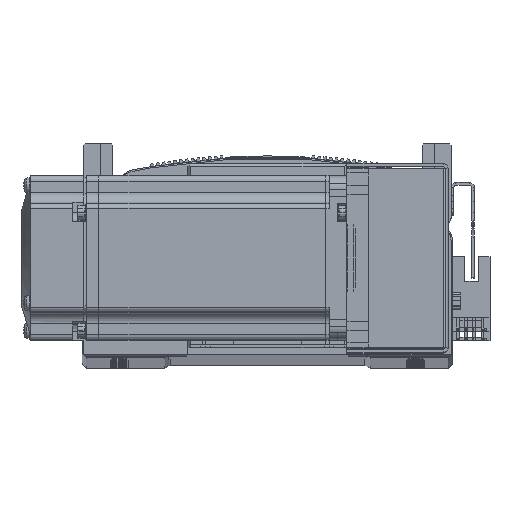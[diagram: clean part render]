
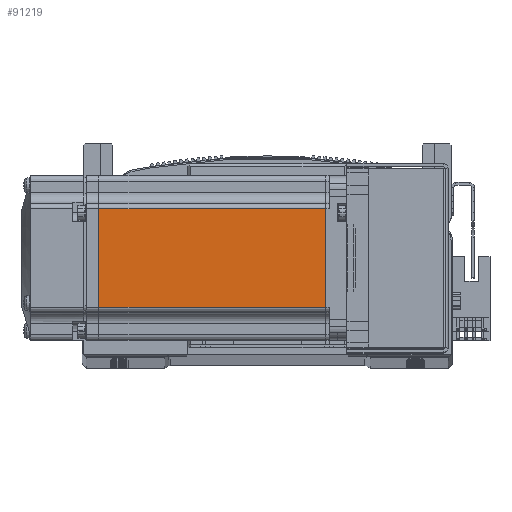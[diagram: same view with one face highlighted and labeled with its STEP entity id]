
A CAD part, top view. The second image highlights one B-rep face of the part: STEP entity #91219.
In plain terms, the highlighted planar face has unit normal (0, 0, 1) as drawn and (0, -1, 0) by its records, which use the part's own axes.
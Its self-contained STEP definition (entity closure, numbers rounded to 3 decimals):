
#2966 = CARTESIAN_POINT ( 'NONE',  ( -90.45, -30., 0. ) ) ;
#2979 = DIRECTION ( 'NONE',  ( 0., 0., -1. ) ) ;
#3055 = CARTESIAN_POINT ( 'NONE',  ( -6.5, -30., 18. ) ) ;
#3059 = DIRECTION ( 'NONE',  ( -1., 0., 0. ) ) ;
#3076 = CARTESIAN_POINT ( 'NONE',  ( -7.75, -30., 0. ) ) ;
#3113 = DIRECTION ( 'NONE',  ( 0., 0., -1. ) ) ;
#3521 = DIRECTION ( 'NONE',  ( -1., 0., 0. ) ) ;
#3553 = CARTESIAN_POINT ( 'NONE',  ( -6.5, -30., -18. ) ) ;
#6886 = CARTESIAN_POINT ( 'NONE',  ( -7.75, -30., -18. ) ) ;
#6981 = CARTESIAN_POINT ( 'NONE',  ( -90.45, -30., -18. ) ) ;
#23684 = AXIS2_PLACEMENT_3D ( 'NONE', #27534, #27525, #27513 ) ;
#26078 = FACE_OUTER_BOUND ( 'NONE', #50193, .T. ) ;
#27492 = PLANE ( 'NONE',  #23684 ) ;
#27513 = DIRECTION ( 'NONE',  ( 0., 0., -1. ) ) ;
#27525 = DIRECTION ( 'NONE',  ( 0., -1., 0. ) ) ;
#27534 = CARTESIAN_POINT ( 'NONE',  ( -6.5, -30., -25. ) ) ;
#48944 = VERTEX_POINT ( 'NONE', #6886 ) ;
#49040 = VERTEX_POINT ( 'NONE', #6981 ) ;
#50193 = EDGE_LOOP ( 'NONE', ( #57696, #57702, #57667, #57705 ) ) ;
#57667 = ORIENTED_EDGE ( 'NONE', *, *, #58160, .T. ) ;
#57696 = ORIENTED_EDGE ( 'NONE', *, *, #58180, .F. ) ;
#57702 = ORIENTED_EDGE ( 'NONE', *, *, #58131, .T. ) ;
#57705 = ORIENTED_EDGE ( 'NONE', *, *, #58419, .F. ) ;
#58131 = EDGE_CURVE ( 'NONE', #65067, #65220, #87235, .T. ) ;
#58160 = EDGE_CURVE ( 'NONE', #65220, #49040, #87244, .T. ) ;
#58180 = EDGE_CURVE ( 'NONE', #65067, #48944, #87201, .T. ) ;
#58419 = EDGE_CURVE ( 'NONE', #48944, #49040, #87444, .T. ) ;
#65067 = VERTEX_POINT ( 'NONE', #78545 ) ;
#65220 = VERTEX_POINT ( 'NONE', #78768 ) ;
#78545 = CARTESIAN_POINT ( 'NONE',  ( -7.75, -30., 18. ) ) ;
#78768 = CARTESIAN_POINT ( 'NONE',  ( -90.45, -30., 18. ) ) ;
#87201 = LINE ( 'NONE', #3076, #87204 ) ;
#87204 = VECTOR ( 'NONE', #3113, 1000. ) ;
#87218 = VECTOR ( 'NONE', #2979, 1000. ) ;
#87235 = LINE ( 'NONE', #3055, #87252 ) ;
#87244 = LINE ( 'NONE', #2966, #87218 ) ;
#87252 = VECTOR ( 'NONE', #3059, 1000. ) ;
#87387 = VECTOR ( 'NONE', #3521, 1000. ) ;
#87444 = LINE ( 'NONE', #3553, #87387 ) ;
#91219 = ADVANCED_FACE ( 'NONE', ( #26078 ), #27492, .T. ) ;
